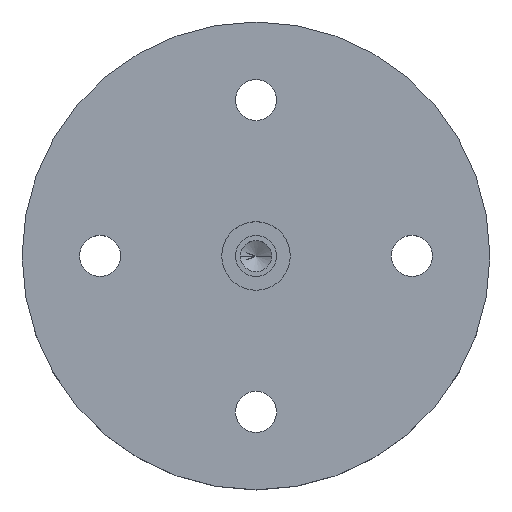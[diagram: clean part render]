
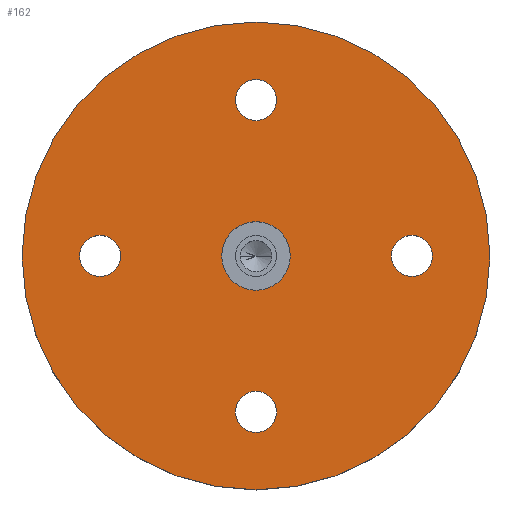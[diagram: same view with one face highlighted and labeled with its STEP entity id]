
A CAD part, top view. The second image highlights one B-rep face of the part: STEP entity #162.
In plain terms, the highlighted planar face has unit normal (0, 0, 1).
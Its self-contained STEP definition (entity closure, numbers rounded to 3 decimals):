
#15 = CIRCLE ( 'NONE', #310, 3.3 ) ;
#23 = EDGE_CURVE ( 'NONE', #1821, #559, #544, .T. ) ;
#45 = DIRECTION ( 'NONE',  ( -1., 0., 0. ) ) ;
#48 = ORIENTED_EDGE ( 'NONE', *, *, #1687, .T. ) ;
#84 = FACE_BOUND ( 'NONE', #299, .T. ) ;
#107 = DIRECTION ( 'NONE',  ( 0., 0., 1. ) ) ;
#158 = DIRECTION ( 'NONE',  ( 0., 0., -1. ) ) ;
#162 = ADVANCED_FACE ( 'NONE', ( #1758, #1346, #277, #84, #395, #546 ), #387, .T. ) ;
#170 = ORIENTED_EDGE ( 'NONE', *, *, #667, .F. ) ;
#174 = CIRCLE ( 'NONE', #1537, 5.5 ) ;
#179 = CARTESIAN_POINT ( 'NONE',  ( 28.3, 0., 0. ) ) ;
#190 = CARTESIAN_POINT ( 'NONE',  ( -25., 0., 0. ) ) ;
#206 = EDGE_LOOP ( 'NONE', ( #48, #1893 ) ) ;
#230 = CIRCLE ( 'NONE', #1052, 3.3 ) ;
#239 = ORIENTED_EDGE ( 'NONE', *, *, #866, .F. ) ;
#274 = CARTESIAN_POINT ( 'NONE',  ( -3.3, -25., 0. ) ) ;
#277 = FACE_BOUND ( 'NONE', #1127, .T. ) ;
#294 = CARTESIAN_POINT ( 'NONE',  ( 21.7, 0., 0. ) ) ;
#296 = VERTEX_POINT ( 'NONE', #618 ) ;
#299 = EDGE_LOOP ( 'NONE', ( #654, #517 ) ) ;
#310 = AXIS2_PLACEMENT_3D ( 'NONE', #1562, #1591, #539 ) ;
#331 = CARTESIAN_POINT ( 'NONE',  ( 0., 25., 0. ) ) ;
#346 = CARTESIAN_POINT ( 'NONE',  ( 0., -25., 0. ) ) ;
#361 = CARTESIAN_POINT ( 'NONE',  ( 0., 0., 0. ) ) ;
#384 = DIRECTION ( 'NONE',  ( 1., 0., 0. ) ) ;
#387 = PLANE ( 'NONE',  #696 ) ;
#395 = FACE_BOUND ( 'NONE', #1696, .T. ) ;
#397 = CARTESIAN_POINT ( 'NONE',  ( 25., 0., 0. ) ) ;
#450 = CARTESIAN_POINT ( 'NONE',  ( 0., 0., 0. ) ) ;
#451 = VERTEX_POINT ( 'NONE', #943 ) ;
#453 = CIRCLE ( 'NONE', #834, 5.5 ) ;
#459 = DIRECTION ( 'NONE',  ( -1., 0., 0. ) ) ;
#468 = CIRCLE ( 'NONE', #1144, 3.3 ) ;
#470 = DIRECTION ( 'NONE',  ( 0., 0., 1. ) ) ;
#476 = CIRCLE ( 'NONE', #1915, 37.5 ) ;
#482 = ORIENTED_EDGE ( 'NONE', *, *, #1054, .T. ) ;
#517 = ORIENTED_EDGE ( 'NONE', *, *, #689, .T. ) ;
#539 = DIRECTION ( 'NONE',  ( -1., 0., 0. ) ) ;
#544 = CIRCLE ( 'NONE', #1078, 3.3 ) ;
#546 = FACE_OUTER_BOUND ( 'NONE', #847, .T. ) ;
#559 = VERTEX_POINT ( 'NONE', #907 ) ;
#566 = AXIS2_PLACEMENT_3D ( 'NONE', #397, #737, #1325 ) ;
#569 = DIRECTION ( 'NONE',  ( -1., 0., 0. ) ) ;
#605 = EDGE_CURVE ( 'NONE', #1166, #1429, #758, .T. ) ;
#618 = CARTESIAN_POINT ( 'NONE',  ( 5.5, 0., 0. ) ) ;
#649 = VERTEX_POINT ( 'NONE', #1342 ) ;
#654 = ORIENTED_EDGE ( 'NONE', *, *, #1247, .T. ) ;
#667 = EDGE_CURVE ( 'NONE', #692, #1424, #476, .T. ) ;
#689 = EDGE_CURVE ( 'NONE', #649, #813, #230, .T. ) ;
#691 = CARTESIAN_POINT ( 'NONE',  ( -21.7, 0., 0. ) ) ;
#692 = VERTEX_POINT ( 'NONE', #1396 ) ;
#696 = AXIS2_PLACEMENT_3D ( 'NONE', #1956, #1327, #721 ) ;
#702 = ORIENTED_EDGE ( 'NONE', *, *, #1935, .T. ) ;
#721 = DIRECTION ( 'NONE',  ( 1., 0., 0. ) ) ;
#737 = DIRECTION ( 'NONE',  ( 0., 0., -1. ) ) ;
#746 = DIRECTION ( 'NONE',  ( 1., 0., 0. ) ) ;
#756 = VERTEX_POINT ( 'NONE', #1690 ) ;
#758 = CIRCLE ( 'NONE', #991, 3.3 ) ;
#789 = CARTESIAN_POINT ( 'NONE',  ( 37.5, 0., 0. ) ) ;
#798 = ORIENTED_EDGE ( 'NONE', *, *, #605, .T. ) ;
#813 = VERTEX_POINT ( 'NONE', #1923 ) ;
#831 = CARTESIAN_POINT ( 'NONE',  ( 0., 0., 0. ) ) ;
#834 = AXIS2_PLACEMENT_3D ( 'NONE', #450, #470, #746 ) ;
#847 = EDGE_LOOP ( 'NONE', ( #170, #1567 ) ) ;
#850 = DIRECTION ( 'NONE',  ( -1., 0., 0. ) ) ;
#866 = EDGE_CURVE ( 'NONE', #296, #451, #174, .T. ) ;
#907 = CARTESIAN_POINT ( 'NONE',  ( -28.3, 0., 0. ) ) ;
#938 = DIRECTION ( 'NONE',  ( 0., 0., -1. ) ) ;
#943 = CARTESIAN_POINT ( 'NONE',  ( -5.5, 0., 0. ) ) ;
#991 = AXIS2_PLACEMENT_3D ( 'NONE', #1058, #158, #1666 ) ;
#1002 = CARTESIAN_POINT ( 'NONE',  ( 0., 0., 0. ) ) ;
#1014 = CARTESIAN_POINT ( 'NONE',  ( 0., -25., 0. ) ) ;
#1029 = DIRECTION ( 'NONE',  ( 0., 0., -1. ) ) ;
#1052 = AXIS2_PLACEMENT_3D ( 'NONE', #1421, #1385, #45 ) ;
#1054 = EDGE_CURVE ( 'NONE', #756, #1115, #1130, .T. ) ;
#1058 = CARTESIAN_POINT ( 'NONE',  ( 25., 0., 0. ) ) ;
#1071 = AXIS2_PLACEMENT_3D ( 'NONE', #1002, #1029, #569 ) ;
#1078 = AXIS2_PLACEMENT_3D ( 'NONE', #190, #1124, #1112 ) ;
#1104 = DIRECTION ( 'NONE',  ( 0., 0., -1. ) ) ;
#1112 = DIRECTION ( 'NONE',  ( -1., 0., 0. ) ) ;
#1115 = VERTEX_POINT ( 'NONE', #274 ) ;
#1124 = DIRECTION ( 'NONE',  ( 0., 0., -1. ) ) ;
#1127 = EDGE_LOOP ( 'NONE', ( #798, #702 ) ) ;
#1130 = CIRCLE ( 'NONE', #1789, 3.3 ) ;
#1144 = AXIS2_PLACEMENT_3D ( 'NONE', #346, #1104, #1552 ) ;
#1166 = VERTEX_POINT ( 'NONE', #294 ) ;
#1223 = EDGE_CURVE ( 'NONE', #451, #296, #453, .T. ) ;
#1229 = DIRECTION ( 'NONE',  ( -1., 0., 0. ) ) ;
#1247 = EDGE_CURVE ( 'NONE', #813, #649, #1719, .T. ) ;
#1258 = ORIENTED_EDGE ( 'NONE', *, *, #1605, .T. ) ;
#1325 = DIRECTION ( 'NONE',  ( -1., 0., 0. ) ) ;
#1327 = DIRECTION ( 'NONE',  ( 0., 0., 1. ) ) ;
#1342 = CARTESIAN_POINT ( 'NONE',  ( 3.3, 25., 0. ) ) ;
#1346 = FACE_BOUND ( 'NONE', #1613, .T. ) ;
#1385 = DIRECTION ( 'NONE',  ( 0., 0., -1. ) ) ;
#1396 = CARTESIAN_POINT ( 'NONE',  ( -37.5, 0., 0. ) ) ;
#1420 = CIRCLE ( 'NONE', #566, 3.3 ) ;
#1421 = CARTESIAN_POINT ( 'NONE',  ( 0., 25., 0. ) ) ;
#1424 = VERTEX_POINT ( 'NONE', #789 ) ;
#1429 = VERTEX_POINT ( 'NONE', #179 ) ;
#1537 = AXIS2_PLACEMENT_3D ( 'NONE', #831, #107, #384 ) ;
#1552 = DIRECTION ( 'NONE',  ( -1., 0., 0. ) ) ;
#1555 = AXIS2_PLACEMENT_3D ( 'NONE', #331, #1692, #459 ) ;
#1562 = CARTESIAN_POINT ( 'NONE',  ( -25., 0., 0. ) ) ;
#1567 = ORIENTED_EDGE ( 'NONE', *, *, #1938, .F. ) ;
#1591 = DIRECTION ( 'NONE',  ( 0., 0., -1. ) ) ;
#1605 = EDGE_CURVE ( 'NONE', #1115, #756, #468, .T. ) ;
#1613 = EDGE_LOOP ( 'NONE', ( #1258, #482 ) ) ;
#1666 = DIRECTION ( 'NONE',  ( -1., 0., 0. ) ) ;
#1677 = CIRCLE ( 'NONE', #1071, 37.5 ) ;
#1687 = EDGE_CURVE ( 'NONE', #559, #1821, #15, .T. ) ;
#1690 = CARTESIAN_POINT ( 'NONE',  ( 3.3, -25., 0. ) ) ;
#1692 = DIRECTION ( 'NONE',  ( 0., 0., -1. ) ) ;
#1696 = EDGE_LOOP ( 'NONE', ( #239, #1725 ) ) ;
#1719 = CIRCLE ( 'NONE', #1555, 3.3 ) ;
#1725 = ORIENTED_EDGE ( 'NONE', *, *, #1223, .F. ) ;
#1758 = FACE_BOUND ( 'NONE', #206, .T. ) ;
#1789 = AXIS2_PLACEMENT_3D ( 'NONE', #1014, #1936, #850 ) ;
#1821 = VERTEX_POINT ( 'NONE', #691 ) ;
#1893 = ORIENTED_EDGE ( 'NONE', *, *, #23, .T. ) ;
#1915 = AXIS2_PLACEMENT_3D ( 'NONE', #361, #938, #1229 ) ;
#1923 = CARTESIAN_POINT ( 'NONE',  ( -3.3, 25., 0. ) ) ;
#1935 = EDGE_CURVE ( 'NONE', #1429, #1166, #1420, .T. ) ;
#1936 = DIRECTION ( 'NONE',  ( 0., 0., -1. ) ) ;
#1938 = EDGE_CURVE ( 'NONE', #1424, #692, #1677, .T. ) ;
#1956 = CARTESIAN_POINT ( 'NONE',  ( 0., 0., 0. ) ) ;
